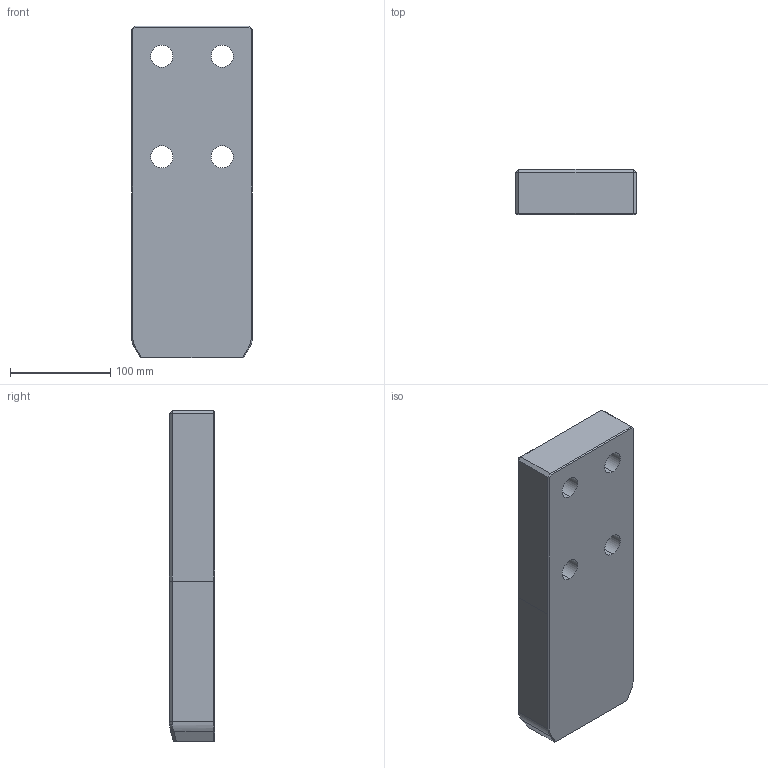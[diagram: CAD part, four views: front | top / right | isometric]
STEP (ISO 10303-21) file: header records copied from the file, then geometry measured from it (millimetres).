
FILE_DESCRIPTION((''),'2;1');
FILE_NAME('','2010-09-08T12:56:11+09:00',('misumi'),(''),'M/STEP i/f 1R2-14','CADmeister v5.1','');
FILE_SCHEMA(('AUTOMOTIVE_DESIGN'));
Length unit declared in the file: millimetre
Products named in the file (1): OGP120-330
Bounding box: 120 x 45 x 330 mm (x, y, z)
Volume: 1696521.2 mm3; surface area: 126926.7 mm2
Topology: 1 solids, 1 shells, 53 faces, 128 edges, 78 vertices
Faces by surface type: plane 32, cylinder 13, bspline 6, cone 2
Entity records: 1903 total; most frequent: CARTESIAN_POINT 598, ORIENTED_EDGE 248, DIRECTION 234, EDGE_CURVE 124, LINE 82, VECTOR 82, AXIS2_PLACEMENT_3D 76, VERTEX_POINT 74
